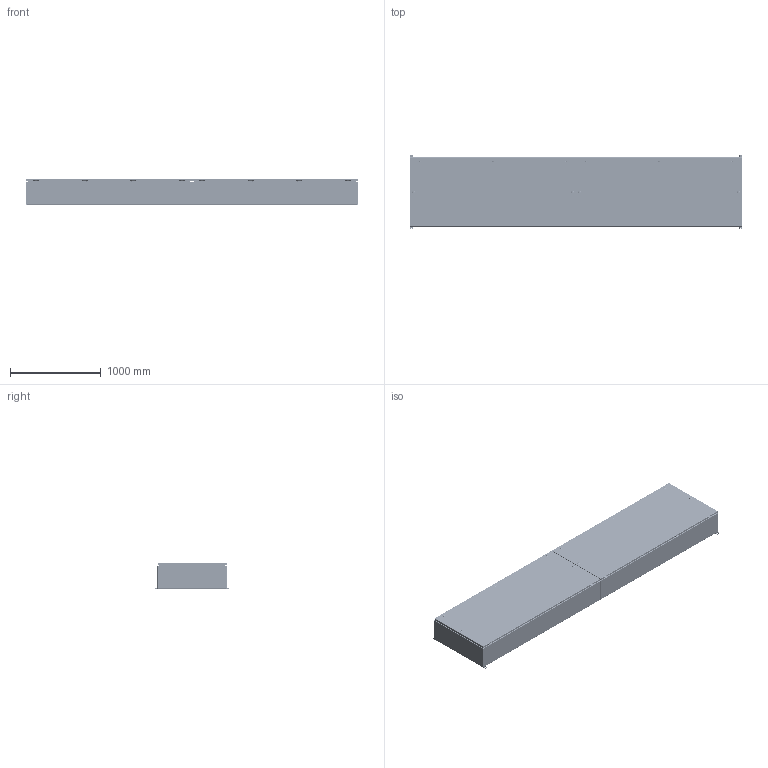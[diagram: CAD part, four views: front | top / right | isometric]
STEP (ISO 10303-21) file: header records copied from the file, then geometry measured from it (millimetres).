
FILE_DESCRIPTION(/* description */ ('1412BTCU 800A - 4 Wires x 144" Assembly'),/* implementation_level */ '2;1');
FILE_NAME(/* name */ 'C:\Vault_Workspace\Inventor_Dwg\BoxCad\Result\1412BTCU12804\e-mail\3D\1412BTCU12804.stp',/* time_stamp */ '2022-09-13T04:12:49-04:00',/* author */ ('BoxCad'),/* organization */ (''),/* preprocessor_version */ 'ST-DEVELOPER v18.1',/* originating_system */ 'Autodesk Inventor 2020',/* authorisation */ '');
FILE_SCHEMA (('AUTOMOTIVE_DESIGN { 1 0 10303 214 3 1 1 }'));
Products named in the file (69): 1412BTCU12804; 1412BTCU12804B; 1412BTCU12804B-P; 1412BTCU12804E-P; STK-Q-16005; iLogic_STK-G-00701; STK-Q-00260; STK-Q-07220-1; STK-Q-07220-A; STK-Q-07220-B; 1412BTCU12804C; 1412BTCU12804C-P; 1412BTCU12804F-P; 1412BTCU12804G; STK-Q-16080; STK-K-09800; STK-Q-33014; STK-Q-90398; STK-Q-40095; STK-Q-63410; STK-S-00100; STK-P-02400S; STK-A-880SCQ4-SL-1; STK-A-880SCQ4-SL-2; STK-A-880SCQ4-SL-3; STK-A-880SCQ4-SL-4; STK-A-880SCQ4-SL-5; STK-A-880SCQ4-SL-6; STK-Q-78140; STK-A-880SCQ4-SL-7; STK-A-880SCQ4-SL-8; STK-A-880SCQ4-SL-9; STK-A-880SCQ4-SL-10; STK-Q-78110; STK-Q-78120; STK-Q-78145; STK-Q-03200; STK-Q-78125; STK-Q-78141; STK-Q-90390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
Assembly tree (258 placements, depth 4):
  1412BTCU12804
    1412BTCU12804B
      1412BTCU12804B-P
      1412BTCU12804E-P
      STK-Q-16080  x2
      STK-Q-16005  x12
      iLogic_STK-G-00701
      STK-Q-00260  x10
      STK-Q-07220-1  x10
        STK-Q-07220-A
        STK-Q-07220-B
      STK-S-00100
      STK-P-02400S
    1412BTCU12804C
      1412BTCU12804C-P
      1412BTCU12804F-P
      1412BTCU12804G  x2
      STK-Q-16080  x2
      STK-K-09800  x8
        STK-Q-33014
        STK-Q-90398
        STK-Q-40095
        STK-Q-63410
      STK-S-00100
      STK-P-02400S
      STK-A-880SCQ4-SL-1
        STK-Q-78110
        STK-Q-78120
        STK-Q-78145
        STK-Q-03200
        STK-Q-78125
        STK-Q-78141
        STK-Q-90390
        STK-Q-78160
      STK-A-880SCQ4-SL-2
        STK-Q-78110
        STK-Q-78120
        STK-Q-78145
        STK-Q-03200
        STK-Q-78125
        STK-Q-78141
        STK-Q-90390
        STK-Q-78160
      STK-A-880SCQ4-SL-3
        STK-Q-78110
        STK-Q-78120
        STK-Q-78145
        STK-Q-03200
        STK-Q-78125
        STK-Q-78141
        STK-Q-90390
        STK-Q-78160
      STK-A-880SCQ4-SL-4
        STK-Q-78110
        STK-Q-78120
        STK-Q-78145
        STK-Q-03200
        STK-Q-78125
        STK-Q-78141
        STK-Q-90390
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Bounding box: 3657.6 x 819.15 x 294.19 mm (x, y, z)
Volume: 25339094 mm3; surface area: 23286112.3 mm2
Topology: 400 solids, 400 shells, 56201 faces, 146060 edges, 90530 vertices
Faces by surface type: plane 20771, bspline 14722, cylinder 14085, torus 4449, sphere 1328, cone 846
Full cylindrical faces by diameter (mm): 0.75 x16, 0.762 x16, 1 x32, 1.1 x32, 3.2 x16, 4.5 x80, 4.521 x32, 4.85 x64, 4.95 x16, 5 x10, 5.1 x148, 5.6 x8, 5.9 x278, 6.65 x32, 6.8 x10, 6.85 x120, 7.3 x8, 7.366 x8, 7.8 x820, 7.9 x12, 8 x74, 8.25 x40, 8.382 x8, 8.6 x12, 9.5 x10, 9.6 x10, 9.7 x48, 9.906 x4, 10 x10, 10.312 x2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
Entity records: 230954 total; most frequent: CARTESIAN_POINT 87323, ORIENTED_EDGE 31194, DIRECTION 26392, EDGE_CURVE 15597, VERTEX_POINT 9915, AXIS2_PLACEMENT_3D 9190, LINE 8012, VECTOR 8012
